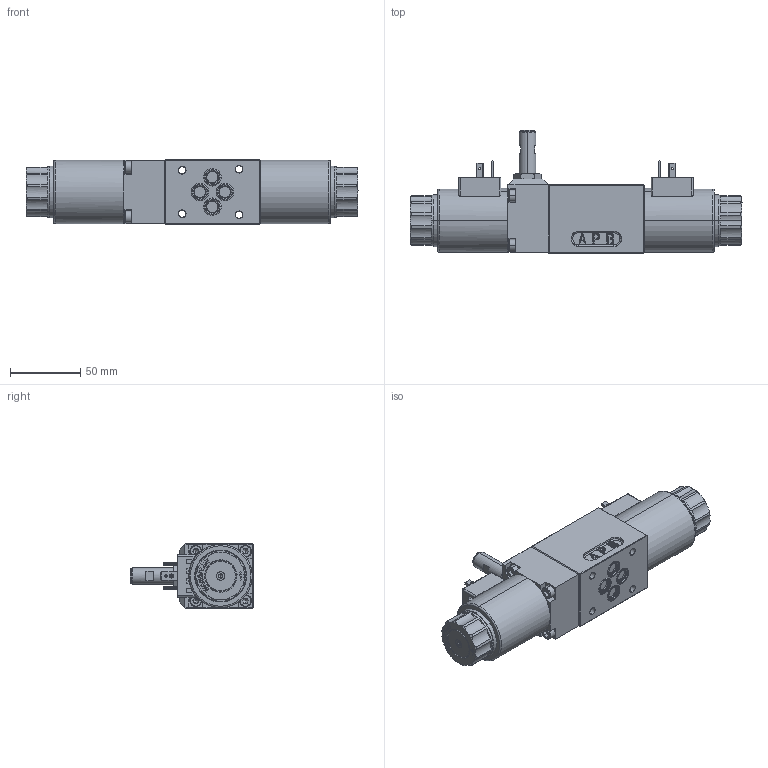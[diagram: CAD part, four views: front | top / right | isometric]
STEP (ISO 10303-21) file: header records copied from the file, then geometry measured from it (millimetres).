
FILE_DESCRIPTION (( 'STEP AP214' ), '1' );
FILE_NAME ('WDMFA06-4_3-Z482a,Z603a,Z680a.STEP', '2019-08-12T13:48:13', ( '' ), ( '' ), 'SwSTEP 2.0', 'SolidWorks 2018', '' );
FILE_SCHEMA (( 'AUTOMOTIVE_DESIGN' ));
Length unit declared in the file: millimetre
Products named in the file (1): WDMFA06-4_3-Z482a,Z603a,Z680a
Bounding box: 236.4 x 87.8 x 46 mm (x, y, z)
Volume: 428229.3 mm3; surface area: 61534.5 mm2
Topology: 13 solids, 20 shells, 1975 faces, 5291 edges, 3416 vertices
Faces by surface type: plane 1008, cylinder 686, bspline 110, cone 109, torus 40, sphere 22
Entity records: 87578 total; most frequent: CARTESIAN_POINT 16466, ORIENTED_EDGE 10512, DIRECTION 10156, EDGE_CURVE 5256, AXIS2_PLACEMENT_3D 3551, VERTEX_POINT 3416, VECTOR 3054, LINE 3054
